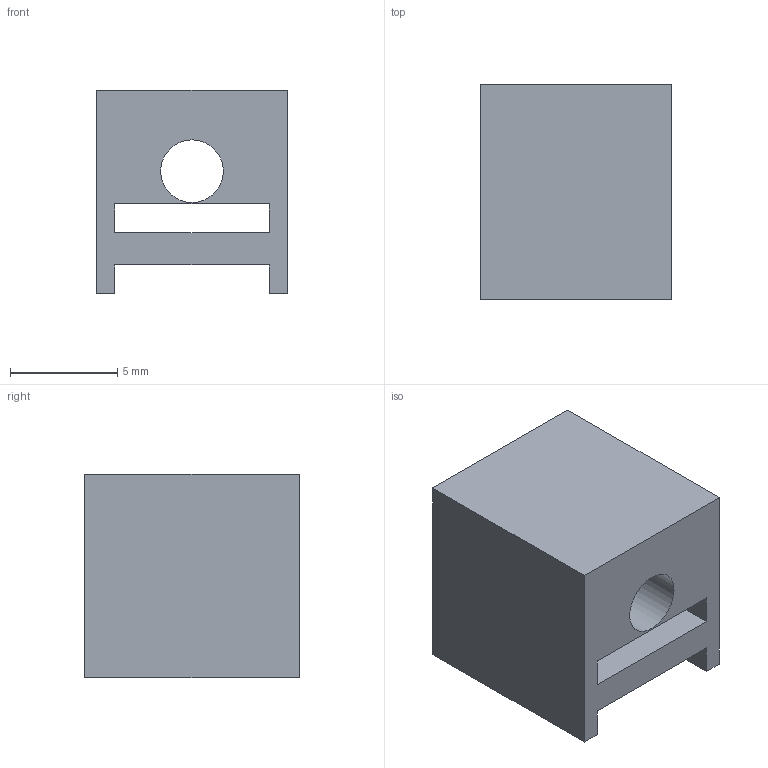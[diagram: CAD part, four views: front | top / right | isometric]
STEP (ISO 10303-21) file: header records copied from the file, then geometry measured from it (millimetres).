
FILE_DESCRIPTION(('FreeCAD Model'),'2;1');
FILE_NAME('/home/ricardo/FreeCAD/myPrinter/FreeCAD/y_belt_v1.step', '2015-01-03T07:06:00',('Author'),(''), 'Open CASCADE STEP processor 6.7','FreeCAD','Unknown');
FILE_SCHEMA(('AUTOMOTIVE_DESIGN_CC2 { 1 2 10303 214 -1 1 5 4 }'));
Length unit declared in the file: millimetre
Products named in the file (1): Pocket
Bounding box: 8.9 x 10 x 9.5 mm (x, y, z)
Volume: 584.1 mm3; surface area: 774.6 mm2
Topology: 1 solids, 1 shells, 15 faces, 39 edges, 26 vertices
Faces by surface type: plane 14, cylinder 1
Full cylindrical faces by diameter (mm): 2.92 x1
Entity records: 973 total; most frequent: CARTESIAN_POINT 177, DIRECTION 133, LINE 95, VECTOR 95, ORIENTED_EDGE 78, PCURVE 78, DEFINITIONAL_REPRESENTATION 78, EDGE_CURVE 39
